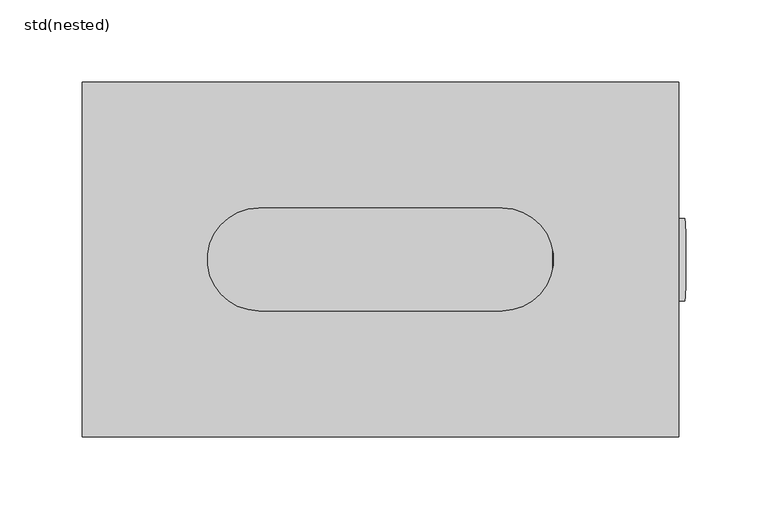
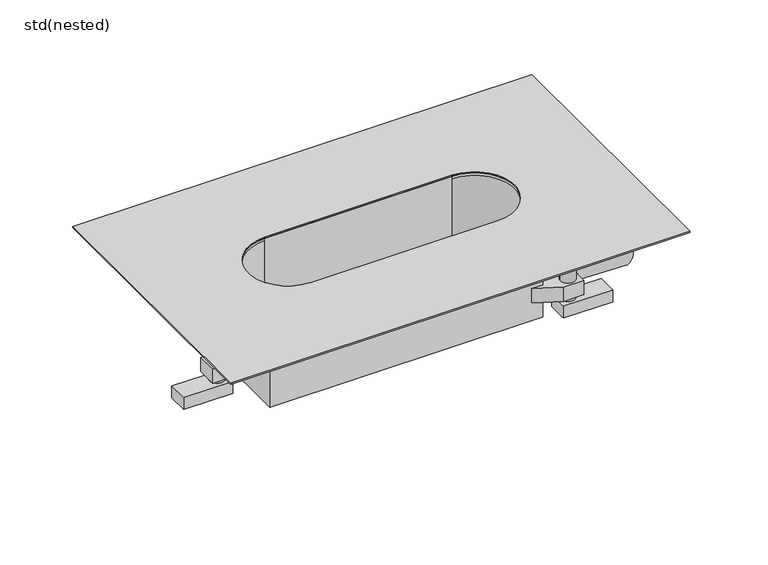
"""IFC4 building model written with IfcOpenShell, lengths in millimetres: sanitary terminal geometry, ZZZ_do not use_PF_ST_UN_floor drain ShowerDrain S+_ACO : std(nested)."""

from ifc_helpers import new_model, si_unit, point, frame, frame_2d, origin, place, context, project, spatial, polyline, circle_curve, trimmed, segment, composite_curve, outline, extrude, source, transform, mapped, element, save
from ifc_brep_helpers import plane_surface, revolved_surface, advanced_brep


def std_nested_f3f9fe5f(model_context):
    return source(origin(), model_context, "Body", "SolidModel", [
        extrude(outline(composite_curve([segment(trimmed(circle_curve(frame_2d((0.0, -25.0)), 25.0), [point((0.0, -50.0))], [point((0.0, 0.0))], False, "CARTESIAN"), True, "CONTINUOUS"), segment(trimmed(circle_curve(frame_2d((0.0, -25.0)), 25.0), [point((0.0, 0.0))], [point((0.0, -50.0))], False, "CARTESIAN"), True, "CONTINUOUS")], self_intersect=False), holes=[composite_curve([segment(trimmed(circle_curve(frame_2d((0.0, -25.0)), 23.0), [point((0.0, -48.0))], [point((0.0, -2.0))], True, "CARTESIAN"), True, "CONTINUOUS"), segment(trimmed(circle_curve(frame_2d((0.0, -25.0)), 23.0), [point((0.0, -2.0))], [point((0.0, -48.0))], True, "CARTESIAN"), True, "CONTINUOUS")], self_intersect=False)]), frame((185.1725137, -25.2244528, -23.9005007), z_axis=(-0.9996573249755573, 0.0, 0.026176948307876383), x_axis=(-0.026176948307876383, 0.0, -0.9996573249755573)), (0.0, 0.0, 1.0), 79.8878663),
        extrude(outline(polyline([(-121.951779, 8.0), (-121.951779, -8.0), (-160.951779, -8.0), (-160.951779, 8.0), (-121.951779, 8.0)])), frame((0.0, 0.0, -48.0111617), z_axis=(0.0, 0.0, 1.0), x_axis=(1.0, 0.0, 0.0)), (0.0, 0.0, 1.0), 10.0),
        extrude(outline(polyline([(158.0, 43.9690357), (158.0, 27.5575256), (119.0, 27.5575256), (119.0, 43.9690357), (158.0, 43.9690357)])), frame((0.0, 0.0, -48.0111617), z_axis=(0.0, 0.0, 1.0), x_axis=(1.0, 0.0, 0.0)), (0.0, 0.0, 1.0), 10.0),
        extrude(outline(polyline([(158.0, -27.5482191), (158.0, -43.5154528), (119.0, -43.5154528), (119.0, -27.5482191), (158.0, -27.5482191)])), frame((0.0, 0.0, -48.0111617), z_axis=(0.0, 0.0, 1.0), x_axis=(1.0, 0.0, 0.0)), (0.0, 0.0, 1.0), 10.0),
        extrude(outline(composite_curve([segment(trimmed(circle_curve(frame_2d((127.0109536, -35.53125)), 5.923615), [point((121.0873387, -35.53125))], [point((132.9345686, -35.53125))], False, "CARTESIAN"), True, "CONTINUOUS"), segment(trimmed(circle_curve(frame_2d((127.0109536, -35.53125)), 5.923615), [point((132.9345686, -35.53125))], [point((121.0873387, -35.53125))], False, "CARTESIAN"), True, "CONTINUOUS")], self_intersect=False)), frame((0.0, 0.0, -38.0111617), z_axis=(0.0, 0.0, 1.0), x_axis=(1.0, 0.0, 0.0)), (0.0, 0.0, 1.0), 70.0),
        extrude(outline(composite_curve([segment(trimmed(circle_curve(frame_2d((127.0, 35.7632806)), 5.8725233), [point((121.1274767, 35.7632806))], [point((132.8725233, 35.7632806))], False, "CARTESIAN"), True, "CONTINUOUS"), segment(trimmed(circle_curve(frame_2d((127.0, 35.7632806)), 5.8725233), [point((132.8725233, 35.7632806))], [point((121.1274767, 35.7632806))], False, "CARTESIAN"), True, "CONTINUOUS")], self_intersect=False)), frame((0.0, 0.0, -38.0111617), z_axis=(0.0, 0.0, 1.0), x_axis=(1.0, 0.0, 0.0)), (0.0, 0.0, 1.0), 70.0),
        extrude(outline(composite_curve([segment(trimmed(circle_curve(frame_2d((-130.0, 0.0)), 5.9292389), [point((-135.9292389, 0.0))], [point((-124.0707611, 0.0))], False, "CARTESIAN"), True, "CONTINUOUS"), segment(trimmed(circle_curve(frame_2d((-130.0, 0.0)), 5.9292389), [point((-124.0707611, 0.0))], [point((-135.9292389, 0.0))], False, "CARTESIAN"), True, "CONTINUOUS")], self_intersect=False)), frame((0.0, 0.0, -38.0111617), z_axis=(0.0, 0.0, 1.0), x_axis=(1.0, 0.0, 0.0)), (0.0, 0.0, 1.0), 70.0),
        advanced_brep(
        [(108.0, 34.0, -49.0111617), (108.0, -34.0, -49.0111617), (-108.0, -34.0, -49.0111617), (-108.0, 34.0, -49.0111617), (-108.0, 34.0, 38.9888383), (108.0, 34.0, 38.9888383), (108.0, 34.0, -22.0111617), (98.9702114, 34.0, -22.0111617), (98.9702114, 34.0, -34.0111617), (108.0, 34.0, -34.0111617), (-108.0, -34.0, 38.9888383), (-108.0, 8.0, -22.0111617), (-108.0, -8.0, -22.0111617), (-108.0, -8.0, -34.0111617), (-108.0, 8.0, -34.0111617), (108.0, -34.0, -34.0111617), (98.9979566, -34.0, -34.0111617), (98.9979566, -34.0, -22.0111617), (108.0, -34.0, -22.0111617), (108.0, -34.0, 38.9888383), (108.0, 24.987147, -34.0111617), (108.0, 24.987147, -22.0111617), (108.0, -24.9440727, -22.0111617), (108.0, -24.9440727, -34.0111617), (74.0, 31.2648216, -47.0111617), (-74.0, 31.2648216, -47.0111617), (-74.0, -31.2648216, -47.0111617), (74.0, -31.2648216, -47.0111617), (74.0, 31.2648216, 38.9888383), (74.0, 31.2648216, 40.9888383), (-74.0, 31.2648216, 40.9888383), (-74.0, 31.2648216, 38.9888383), (-74.0, -31.2648216, 38.9888383), (-74.0, -31.2648216, 40.9888383), (74.0, -31.2648216, 40.9888383), (74.0, -31.2648216, 38.9888383), (119.0, 45.0, 40.9888383), (-119.0, 45.0, 40.9888383), (-119.0, -45.0, 40.9888383), (119.0, -45.0, 40.9888383), (119.0, 45.0, 38.9888383), (119.0, -45.0, 38.9888383), (-119.0, -45.0, 38.9888383), (-119.0, 45.0, 38.9888383), (119.403911, -43.5154528, -22.0111617), (135.205755, -43.5154528, -22.0111617), (135.205755, -27.5482191, -22.0111617), (113.58461, -27.5482191, -22.0111617), (-138.0, -8.0, -22.0111617), (-138.0, 8.0, -22.0111617), (135.205755, 27.5575256, -22.0111617), (135.205755, 43.9690357, -22.0111617), (120.3488773, 43.9690357, -22.0111617), (113.588574, 27.5575256, -22.0111617), (119.403911, -43.5154528, -34.0111617), (113.58461, -27.5482191, -34.0111617), (135.205755, -27.5482191, -34.0111617), (135.205755, -43.5154528, -34.0111617), (135.205755, 27.5575256, -34.0111617), (113.588574, 27.5575256, -34.0111617), (120.3488773, 43.9690357, -34.0111617), (135.205755, 43.9690357, -34.0111617), (-138.0, -8.0, -34.0111617), (-138.0, 8.0, -34.0111617)],
        [
            (0, 1),
            (1, 2),
            (2, 3),
            (3, 0),
            (3, 4),
            (4, 5),
            (5, 6),
            (6, 7),
            (7, 8),
            (8, 9),
            (9, 0),
            (2, 10),
            (10, 4),
            (11, 12),
            (12, 13),
            (13, 14),
            (14, 11),
            (1, 15),
            (15, 16),
            (16, 17),
            (17, 18),
            (18, 19),
            (19, 10),
            (9, 20),
            (20, 21),
            (21, 6),
            (5, 19),
            (18, 22),
            (22, 23),
            (23, 15),
            (24, 25),
            (25, 26, circle_curve(frame((-74.0, 0.0, -47.0111617), z_axis=(0.0, 0.0, 1.0), x_axis=(1.0, 0.0, 0.0)), 31.2648216)),
            (26, 27),
            (27, 24, circle_curve(frame((74.0, 0.0, -47.0111617), z_axis=(0.0, 0.0, 1.0), x_axis=(1.0, 0.0, 0.0)), 31.2648216)),
            (24, 28),
            (28, 29),
            (29, 30),
            (30, 31),
            (31, 25),
            (31, 32, circle_curve(frame((-74.0, 0.0, 38.9888383), z_axis=(0.0, 0.0, 1.0), x_axis=(1.0, 0.0, 0.0)), 31.2648216)),
            (32, 26),
            (32, 33),
            (33, 34),
            (34, 35),
            (35, 27),
            (35, 28, circle_curve(frame((74.0, 0.0, 38.9888383), z_axis=(0.0, 0.0, 1.0), x_axis=(1.0, 0.0, 0.0)), 31.2648216)),
            (36, 37),
            (37, 38),
            (38, 39),
            (39, 36),
            (29, 34, circle_curve(frame((74.0, 0.0, 40.9888383), z_axis=(0.0, 0.0, -1.0), x_axis=(1.0, 0.0, 0.0)), 31.2648216)),
            (33, 30, circle_curve(frame((-74.0, 0.0, 40.9888383), z_axis=(0.0, 0.0, -1.0), x_axis=(1.0, 0.0, 0.0)), 31.2648216)),
            (40, 41),
            (41, 42),
            (42, 43),
            (43, 40),
            (36, 40),
            (43, 37),
            (42, 38),
            (41, 39),
            (44, 45),
            (45, 46),
            (46, 47),
            (47, 22),
            (17, 44),
            (48, 12),
            (11, 49),
            (49, 48),
            (50, 51),
            (51, 52),
            (52, 7),
            (21, 53),
            (53, 50),
            (54, 16),
            (23, 55),
            (55, 56),
            (56, 57),
            (57, 54),
            (58, 59),
            (59, 20),
            (8, 60),
            (60, 61),
            (61, 58),
            (62, 63),
            (63, 14),
            (13, 62),
            (44, 54),
            (57, 45),
            (46, 56),
            (55, 47),
            (51, 61),
            (60, 52),
            (59, 53),
            (58, 50),
            (48, 62),
            (63, 49),
        ],
        [
            plane_surface(frame((-108.0, 34.0, -49.0111617), z_axis=(0.0, 0.0, -1.0), x_axis=(1.0, 0.0, 0.0))),
            plane_surface(frame((108.0, 34.0, 38.9888383), z_axis=(0.0, 1.0, 0.0), x_axis=(0.0, 0.0, -1.0))),
            plane_surface(frame((-108.0, 34.0, 38.9888383), z_axis=(-1.0, 0.0, 0.0), x_axis=(0.0, 0.0, -1.0))),
            plane_surface(frame((-108.0, -34.0, 38.9888383), z_axis=(0.0, -1.0, 0.0), x_axis=(0.0, 0.0, -1.0))),
            plane_surface(frame((108.0, -34.0, 38.9888383), z_axis=(1.0, 0.0, 0.0), x_axis=(0.0, 0.0, -1.0))),
            plane_surface(frame((-74.0, 31.2648216, -47.0111617), z_axis=(0.0, 0.0, 1.0), x_axis=(1.0, 0.0, 0.0))),
            plane_surface(frame((74.0, 31.2648216, 38.9888383), z_axis=(0.0, -1.0, 0.0), x_axis=(0.0, 0.0, -1.0))),
            revolved_surface(polyline([(-42.735178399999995, 0.0, 38.9888383), (-42.735178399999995, 0.0, -47.0111617)]), (-74.0, 0.0, -47.0111617), (0.0, 0.0, 1.0)),
            plane_surface(frame((-74.0, -31.2648216, 38.9888383), z_axis=(0.0, 1.0, 0.0), x_axis=(0.0, 0.0, -1.0))),
            revolved_surface(polyline([(105.2648216, 0.0, 38.9888383), (105.2648216, 0.0, -47.0111617)]), (74.0, 0.0, -47.0111617), (0.0, 0.0, 1.0)),
            plane_surface(frame((-119.0, 45.0, 40.9888383), z_axis=(0.0, 0.0, 1.0), x_axis=(-1.0, 0.0, 0.0))),
            plane_surface(frame((-119.0, 45.0, 38.9888383), z_axis=(0.0, 0.0, -1.0), x_axis=(1.0, 0.0, 0.0))),
            plane_surface(frame((119.0, 45.0, 40.9888383), z_axis=(0.0, 1.0, 0.0), x_axis=(0.0, 0.0, -1.0))),
            plane_surface(frame((-119.0, 45.0, 40.9888383), z_axis=(-1.0, 0.0, 0.0), x_axis=(0.0, 0.0, -1.0))),
            plane_surface(frame((-119.0, -45.0, 40.9888383), z_axis=(0.0, -1.0, 0.0), x_axis=(0.0, 0.0, -1.0))),
            plane_surface(frame((119.0, -45.0, 40.9888383), z_axis=(1.0, 0.0, 0.0), x_axis=(0.0, 0.0, -1.0))),
            revolved_surface(polyline([(105.2648216, 0.0, 38.9888383), (105.2648216, 0.0, 40.9888383)]), (74.0, 0.0, 41.9888383), (0.0, 0.0, -1.0)),
            revolved_surface(polyline([(-42.735178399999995, 0.0, 38.9888383), (-42.735178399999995, 0.0, 40.9888383)]), (-74.0, 0.0, 41.9888383), (0.0, 0.0, -1.0)),
            plane_surface(frame((119.403911, -43.5154528, -22.0111617), z_axis=(0.0, 0.0, 1.0), x_axis=(1.0, 0.0, 0.0))),
            plane_surface(frame((119.403911, -43.5154528, -34.0111617), z_axis=(0.0, 0.0, -1.0), x_axis=(-1.0, 0.0, 0.0))),
            plane_surface(frame((119.403911, -43.5154528, -22.0111617), z_axis=(0.0, -1.0, 0.0), x_axis=(0.0, 0.0, -1.0))),
            plane_surface(frame((135.205755, -27.5482191, -22.0111617), z_axis=(0.0, 1.0, 0.0), x_axis=(0.0, 0.0, -1.0))),
            plane_surface(frame((113.58461, -27.5482191, -22.0111617), z_axis=(0.42261826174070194, 0.9063077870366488, 0.0), x_axis=(0.0, 0.0, -1.0))),
            plane_surface(frame((98.9979566, -34.0, -22.0111617), z_axis=(-0.4226182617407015, -0.906307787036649, 0.0), x_axis=(0.0, 0.0, -1.0))),
            plane_surface(frame((135.205755, 43.9690357, -22.0111617), z_axis=(0.0, 1.0, 0.0), x_axis=(0.0, 0.0, -1.0))),
            plane_surface(frame((120.3488773, 43.9690357, -22.0111617), z_axis=(-0.4226182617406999, 0.9063077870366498, 0.0), x_axis=(0.0, 0.0, -1.0))),
            plane_surface(frame((108.0, 24.987147, -22.0111617), z_axis=(0.41785657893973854, -0.9085130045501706, 0.0), x_axis=(0.0, 0.0, -1.0))),
            plane_surface(frame((113.588574, 27.5575256, -22.0111617), z_axis=(0.0, -1.0, 0.0), x_axis=(0.0, 0.0, -1.0))),
            plane_surface(frame((-138.0, -8.0, -22.0111617), z_axis=(0.0, -1.0, 0.0), x_axis=(0.0, 0.0, -1.0))),
            plane_surface(frame((-108.0, 8.0, -22.0111617), z_axis=(0.0, 1.0, 0.0), x_axis=(0.0, 0.0, -1.0))),
            plane_surface(frame((135.205755, -43.5154528, -22.0111617), z_axis=(1.0, 0.0, 0.0), x_axis=(0.0, 0.0, -1.0))),
            plane_surface(frame((135.205755, 27.5575256, -22.0111617), z_axis=(1.0, 0.0, 0.0), x_axis=(0.0, 0.0, -1.0))),
            plane_surface(frame((-138.0, 8.0, -22.0111617), z_axis=(-1.0, 0.0, 0.0), x_axis=(0.0, 0.0, -1.0))),
        ],
        [
            (0, [[1, 2, 3, 4]]),
            (1, [[-4, 5, 6, 7, 8, 9, 10, 11]]),
            (2, [[-3, 12, 13, -5], [14, 15, 16, 17]]),
            (3, [[-2, 18, 19, 20, 21, 22, 23, -12]]),
            (4, [[-1, -11, 24, 25, 26, -7, 27, -22, 28, 29, 30, -18]]),
            (5, [[31, 32, 33, 34]]),
            (6, [[-31, 35, 36, 37, 38, 39]]),
            (7, [[-32, -39, 40, 41]]),
            (8, [[-33, -41, 42, 43, 44, 45]]),
            (9, [[-34, -45, 46, -35]]),
            (10, [[47, 48, 49, 50], [51, -43, 52, -37]]),
            (11, [[53, 54, 55, 56], [-6, -13, -23, -27]]),
            (12, [[-47, 57, -56, 58]]),
            (13, [[-48, -58, -55, 59]]),
            (14, [[-49, -59, -54, 60]]),
            (15, [[-50, -60, -53, -57]]),
            (16, [[-51, -36, -46, -44]]),
            (17, [[-52, -42, -40, -38]]),
            (18, [[61, 62, 63, 64, -28, -21, 65]]),
            (18, [[66, -14, 67, 68]]),
            (18, [[69, 70, 71, -8, -26, 72, 73]]),
            (19, [[74, -19, -30, 75, 76, 77, 78]]),
            (19, [[79, 80, -24, -10, 81, 82, 83]]),
            (19, [[84, 85, -16, 86]]),
            (20, [[-61, 87, -78, 88]]),
            (21, [[-63, 89, -76, 90]]),
            (22, [[-64, -90, -75, -29]]),
            (23, [[-65, -20, -74, -87]]),
            (24, [[-70, 91, -82, 92]]),
            (25, [[-71, -92, -81, -9]]),
            (26, [[-72, -25, -80, 93]]),
            (27, [[-73, -93, -79, 94]]),
            (28, [[-66, 95, -86, -15]]),
            (29, [[-67, -17, -85, 96]]),
            (30, [[-62, -88, -77, -89]]),
            (31, [[-69, -94, -83, -91]]),
            (32, [[-68, -96, -84, -95]]),
        ],
    ),
        extrude(outline(polyline([(181.5, 108.0), (181.5, -108.0), (-181.5, -108.0), (-181.5, 108.0), (181.5, 108.0)]), holes=[composite_curve([segment(polyline([(74.0, 31.2648216), (-74.0, 31.2648216)]), True, "CONTINUOUS"), segment(trimmed(circle_curve(frame_2d((-74.0, 0.0)), 31.2648216), [point((-74.0, 31.2648216))], [point((-74.0, -31.2648216))], True, "CARTESIAN"), True, "CONTINUOUS"), segment(polyline([(-74.0, -31.2648216), (74.0, -31.2648216)]), True, "CONTINUOUS"), segment(trimmed(circle_curve(frame_2d((74.0, 0.0)), 31.2648216), [point((74.0, -31.2648216))], [point((74.0, 31.2648216))], True, "CARTESIAN"), True, "CONTINUOUS")], self_intersect=False)]), frame((0.0, 0.0, 40.9888383), z_axis=(0.0, 0.0, 1.0), x_axis=(1.0, 0.0, 0.0)), (0.0, 0.0, 1.0), 1.0),
    ])


if __name__ == "__main__":
    model = new_model("IFC4")
    model_context = context("Model", 3, world=origin())
    ifc_project = project(units=[si_unit("LENGTHUNIT", "METRE", prefix="MILLI")], contexts=[model_context])
    site = spatial("IfcSite", under=ifc_project)
    building = spatial("IfcBuilding", under=site)
    placement = place(None, origin())
    std_nested_shape = std_nested_f3f9fe5f(model_context)
    element("IfcSanitaryTerminal", 1, ObjectType="ZZZ_do not use_PF_ST_UN_floor drain ShowerDrain S+_ACO : std(nested)", at=placement, inside=building, context=model_context, shape_type="MappedRepresentation", body=[
        mapped(std_nested_shape, transform((0.0, 0.0, 0.0), x_axis=(1.0, 0.0, 0.0), y_axis=(0.0, 1.0, 0.0), z_axis=(0.0, 0.0, 1.0))),
    ])
    save(model, "model.ifc")
